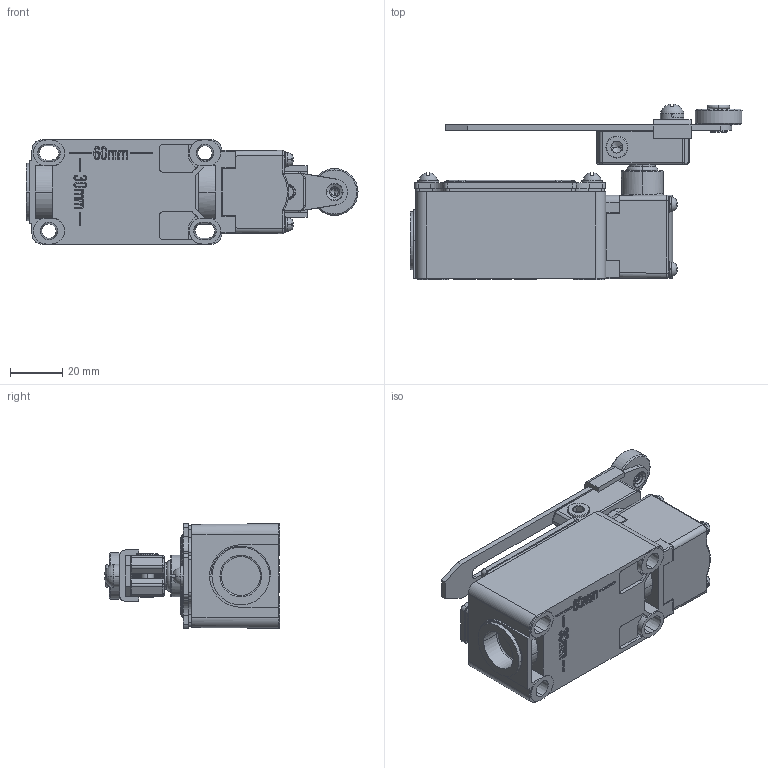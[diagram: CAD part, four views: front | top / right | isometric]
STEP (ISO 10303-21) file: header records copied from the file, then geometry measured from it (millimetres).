
FILE_DESCRIPTION((''),'2;1');
FILE_NAME('2YSY618004_ASM','2021-04-03T',('gaodl'),(''),'CREO PARAMETRIC BY PTC INC, 2015480','CREO PARAMETRIC BY PTC INC, 2015480','');
FILE_SCHEMA(('CONFIG_CONTROL_DESIGN'));
Length unit declared in the file: millimetre
Products named in the file (1): 2YSY618004_ASM
Bounding box: 127.65 x 67.52 x 40.2 mm (x, y, z)
Volume: 136084.1 mm3; surface area: 42279.6 mm2
Topology: 1 solids, 31 shells, 1194 faces, 3151 edges, 2051 vertices
Faces by surface type: plane 566, cylinder 317, extrusion 162, bspline 54, cone 42, torus 39, sphere 14
Entity records: 50349 total; most frequent: CARTESIAN_POINT 12348, ORIENTED_EDGE 6212, DIRECTION 5457, EDGE_CURVE 3147, VERTEX_POINT 2051, AXIS2_PLACEMENT_3D 1888, VECTOR 1681, LINE 1519
